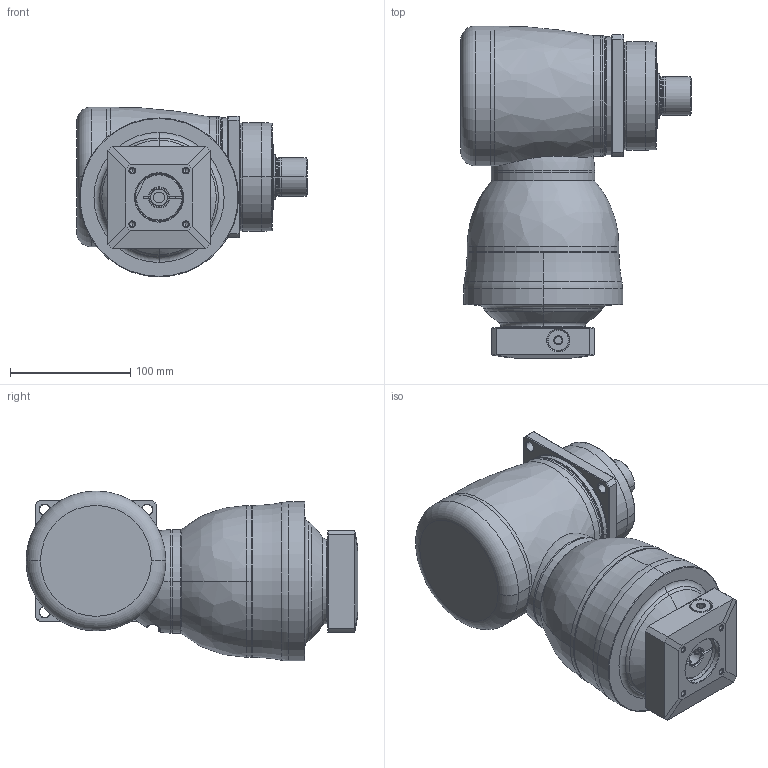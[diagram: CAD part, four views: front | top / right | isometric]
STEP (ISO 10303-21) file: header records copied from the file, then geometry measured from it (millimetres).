
FILE_DESCRIPTION((''),'2;1');
FILE_NAME('KF100_S3_2ST_14-P0409310101_ASM','2016-07-07T',('d01943'),(''),'PRO/ENGINEER BY PARAMETRIC TECHNOLOGY CORPORATION, 2008410','PRO/ENGINEER BY PARAMETRIC TECHNOLOGY CORPORATION, 2008410','');
FILE_SCHEMA(('CONFIG_CONTROL_DESIGN'));
Length unit declared in the file: millimetre
Products named in the file (11): P1008400002; P1804400001; P0915402001; P1315400001; P1007400001; P1317400001; P0409310101; P0503300006; P0912301001; 21711412017; KF100_S3_2ST_14-P0409310101_ASM
Assembly tree (10 placements, depth 2):
  KF100_S3_2ST_14-P0409310101_ASM
    P1008400002
    P1804400001
    P0915402001
    P1315400001
    P1007400001
    P1317400001
    P0409310101
    P0503300006
    P0912301001
    21711412017
Bounding box: 191.3 x 275.5 x 141 mm (x, y, z)
Volume: 2878727.3 mm3; surface area: 292701.8 mm2
Topology: 11 solids, 11 shells, 472 faces, 1048 edges, 615 vertices
Faces by surface type: cylinder 148, cone 120, plane 96, torus 70, bspline 36, sphere 2
Entity records: 18626 total; most frequent: CARTESIAN_POINT 8048, DIRECTION 2318, ORIENTED_EDGE 2056, EDGE_CURVE 1028, AXIS2_PLACEMENT_3D 987, VERTEX_POINT 615, EDGE_LOOP 533, CIRCLE 530
